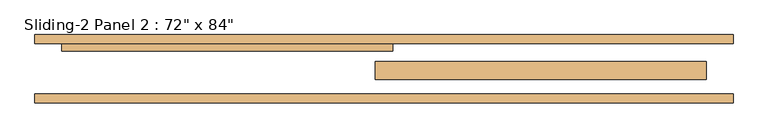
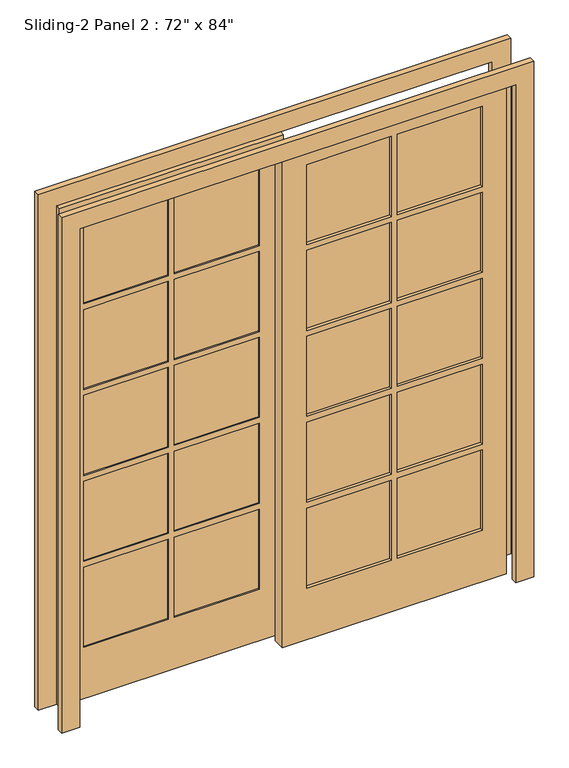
"""IFC4 building model written with IfcOpenShell, lengths in millimetres: door geometry."""

from ifc_helpers import new_model, si_unit, frame, origin, place, context, project, spatial, polyline, outline, extrude, source, transform, mapped, element, save


def door_37dff43f(model_context):
    return source(origin(), model_context, "Body", "SweptSolid", [
        extrude(outline(polyline([(457.2, 134.6668121), (812.8, 134.6668121), (812.8, 110.0909681), (457.2, 110.0909681), (457.2, 134.6668121)])), frame((0.0, 0.0, 1752.6), z_axis=(0.0, 0.0, 1.0), x_axis=(1.0, 0.0, 0.0)), (0.0, 0.0, 1.0), 355.6),
        extrude(outline(polyline([(76.2, 134.6668121), (431.8, 134.6668121), (431.8, 110.0909681), (76.2, 110.0909681), (76.2, 134.6668121)])), frame((0.0, 0.0, 1752.6), z_axis=(0.0, 0.0, 1.0), x_axis=(1.0, 0.0, 0.0)), (0.0, 0.0, 1.0), 355.6),
        extrude(outline(polyline([(457.2, 134.6668121), (812.8, 134.6668121), (812.8, 110.0909681), (457.2, 110.0909681), (457.2, 134.6668121)])), frame((0.0, 0.0, 1371.6), z_axis=(0.0, 0.0, 1.0), x_axis=(1.0, 0.0, 0.0)), (0.0, 0.0, 1.0), 355.6),
        extrude(outline(polyline([(76.2, 134.6668121), (431.8, 134.6668121), (431.8, 110.0909681), (76.2, 110.0909681), (76.2, 134.6668121)])), frame((0.0, 0.0, 1371.6), z_axis=(0.0, 0.0, 1.0), x_axis=(1.0, 0.0, 0.0)), (0.0, 0.0, 1.0), 355.6),
        extrude(outline(polyline([(457.2, 134.6668121), (812.8, 134.6668121), (812.8, 110.0909681), (457.2, 110.0909681), (457.2, 134.6668121)])), frame((0.0, 0.0, 990.6), z_axis=(0.0, 0.0, 1.0), x_axis=(1.0, 0.0, 0.0)), (0.0, 0.0, 1.0), 355.6),
        extrude(outline(polyline([(76.2, 134.6668121), (431.8, 134.6668121), (431.8, 110.0909681), (76.2, 110.0909681), (76.2, 134.6668121)])), frame((0.0, 0.0, 990.6), z_axis=(0.0, 0.0, 1.0), x_axis=(1.0, 0.0, 0.0)), (0.0, 0.0, 1.0), 355.6),
        extrude(outline(polyline([(457.2, 134.6668121), (812.8, 134.6668121), (812.8, 110.0909681), (457.2, 110.0909681), (457.2, 134.6668121)])), frame((0.0, 0.0, 609.6), z_axis=(0.0, 0.0, 1.0), x_axis=(1.0, 0.0, 0.0)), (0.0, 0.0, 1.0), 355.6),
        extrude(outline(polyline([(76.2, 134.6668121), (431.8, 134.6668121), (431.8, 110.0909681), (76.2, 110.0909681), (76.2, 134.6668121)])), frame((0.0, 0.0, 609.6), z_axis=(0.0, 0.0, 1.0), x_axis=(1.0, 0.0, 0.0)), (0.0, 0.0, 1.0), 355.6),
        extrude(outline(polyline([(457.2, 134.6668121), (812.8, 134.6668121), (812.8, 110.0909681), (457.2, 110.0909681), (457.2, 134.6668121)])), frame((0.0, 0.0, 228.6), z_axis=(0.0, 0.0, 1.0), x_axis=(1.0, 0.0, 0.0)), (0.0, 0.0, 1.0), 355.6),
        extrude(outline(polyline([(76.2, 134.6668121), (431.8, 134.6668121), (431.8, 110.0909681), (76.2, 110.0909681), (76.2, 134.6668121)])), frame((0.0, 0.0, 228.6), z_axis=(0.0, 0.0, 1.0), x_axis=(1.0, 0.0, 0.0)), (0.0, 0.0, 1.0), 355.6),
        extrude(outline(polyline([(-457.2, 183.5086448), (-812.8, 183.5086448), (-812.8, 190.5), (-457.2, 190.5), (-457.2, 183.5086448)])), frame((0.0, 0.0, 1752.6), z_axis=(0.0, 0.0, 1.0), x_axis=(1.0, 0.0, 0.0)), (0.0, 0.0, 1.0), 355.6),
        extrude(outline(polyline([(-76.2, 183.5086448), (-431.8, 183.5086448), (-431.8, 190.5), (-76.2, 190.5), (-76.2, 183.5086448)])), frame((0.0, 0.0, 1752.6), z_axis=(0.0, 0.0, 1.0), x_axis=(1.0, 0.0, 0.0)), (0.0, 0.0, 1.0), 355.6),
        extrude(outline(polyline([(-76.2, 183.5086448), (-431.8, 183.5086448), (-431.8, 190.5), (-76.2, 190.5), (-76.2, 183.5086448)])), frame((0.0, 0.0, 1371.6), z_axis=(0.0, 0.0, 1.0), x_axis=(1.0, 0.0, 0.0)), (0.0, 0.0, 1.0), 355.6),
        extrude(outline(polyline([(-457.2, 183.5086448), (-812.8, 183.5086448), (-812.8, 190.5), (-457.2, 190.5), (-457.2, 183.5086448)])), frame((0.0, 0.0, 1371.6), z_axis=(0.0, 0.0, 1.0), x_axis=(1.0, 0.0, 0.0)), (0.0, 0.0, 1.0), 355.6),
        extrude(outline(polyline([(-76.2, 183.5086448), (-431.8, 183.5086448), (-431.8, 190.5), (-76.2, 190.5), (-76.2, 183.5086448)])), frame((0.0, 0.0, 990.6), z_axis=(0.0, 0.0, 1.0), x_axis=(1.0, 0.0, 0.0)), (0.0, 0.0, 1.0), 355.6),
        extrude(outline(polyline([(-457.2, 183.5086448), (-812.8, 183.5086448), (-812.8, 190.5), (-457.2, 190.5), (-457.2, 183.5086448)])), frame((0.0, 0.0, 990.6), z_axis=(0.0, 0.0, 1.0), x_axis=(1.0, 0.0, 0.0)), (0.0, 0.0, 1.0), 355.6),
        extrude(outline(polyline([(-76.2, 183.5086448), (-431.8, 183.5086448), (-431.8, 190.5), (-76.2, 190.5), (-76.2, 183.5086448)])), frame((0.0, 0.0, 609.6), z_axis=(0.0, 0.0, 1.0), x_axis=(1.0, 0.0, 0.0)), (0.0, 0.0, 1.0), 355.6),
        extrude(outline(polyline([(-457.2, 183.5086448), (-812.8, 183.5086448), (-812.8, 190.5), (-457.2, 190.5), (-457.2, 183.5086448)])), frame((0.0, 0.0, 609.6), z_axis=(0.0, 0.0, 1.0), x_axis=(1.0, 0.0, 0.0)), (0.0, 0.0, 1.0), 355.6),
        extrude(outline(polyline([(-457.2, 183.5086448), (-812.8, 183.5086448), (-812.8, 190.5), (-457.2, 190.5), (-457.2, 183.5086448)])), frame((0.0, 0.0, 228.6), z_axis=(0.0, 0.0, 1.0), x_axis=(1.0, 0.0, 0.0)), (0.0, 0.0, 1.0), 355.6),
        extrude(outline(polyline([(-76.2, 183.5086448), (-431.8, 183.5086448), (-431.8, 190.5), (-76.2, 190.5), (-76.2, 183.5086448)])), frame((0.0, 0.0, 228.6), z_axis=(0.0, 0.0, 1.0), x_axis=(1.0, 0.0, 0.0)), (0.0, 0.0, 1.0), 355.6),
        extrude(outline(polyline([(2209.8, -914.4), (0.0, -914.4), (0.0, 25.4), (2209.8, 25.4), (2209.8, -914.4)]), holes=[polyline([(228.6, -457.2), (228.6, -812.8), (584.2, -812.8), (584.2, -457.2), (228.6, -457.2)]), polyline([(1752.6, -812.8), (2108.2, -812.8), (2108.2, -457.2), (1752.6, -457.2), (1752.6, -812.8)]), polyline([(2108.2, -431.8), (2108.2, -76.2), (1752.6, -76.2), (1752.6, -431.8), (2108.2, -431.8)]), polyline([(584.2, -76.2), (228.6, -76.2), (228.6, -431.8), (584.2, -431.8), (584.2, -76.2)]), polyline([(1727.2, -457.2), (1371.6, -457.2), (1371.6, -812.8), (1727.2, -812.8), (1727.2, -457.2)]), polyline([(1346.2, -457.2), (990.6, -457.2), (990.6, -812.8), (1346.2, -812.8), (1346.2, -457.2)]), polyline([(965.2, -457.2), (609.6, -457.2), (609.6, -812.8), (965.2, -812.8), (965.2, -457.2)]), polyline([(1727.2, -76.2), (1371.6, -76.2), (1371.6, -431.8), (1727.2, -431.8), (1727.2, -76.2)]), polyline([(990.6, -431.8), (1346.2, -431.8), (1346.2, -76.2), (990.6, -76.2), (990.6, -431.8)]), polyline([(609.6, -431.8), (965.2, -431.8), (965.2, -76.2), (609.6, -76.2), (609.6, -431.8)])]), frame((0.0, 177.8, 0.0), z_axis=(0.0, 1.0, 0.0), x_axis=(0.0, 0.0, 1.0)), (0.0, 0.0, 1.0), 20.6375),
        extrude(outline(polyline([(2209.8, -25.4), (0.0, -25.4), (0.0, 914.4), (2209.8, 914.4), (2209.8, -25.4)]), holes=[polyline([(2108.2, 457.2), (2108.2, 812.8), (1752.6, 812.8), (1752.6, 457.2), (2108.2, 457.2)]), polyline([(584.2, 812.8), (228.6, 812.8), (228.6, 457.2), (584.2, 457.2), (584.2, 812.8)]), polyline([(228.6, 431.8), (228.6, 76.2), (584.2, 76.2), (584.2, 431.8), (228.6, 431.8)]), polyline([(1752.6, 76.2), (2108.2, 76.2), (2108.2, 431.8), (1752.6, 431.8), (1752.6, 76.2)]), polyline([(1727.2, 457.2), (1727.2, 812.8), (1371.6, 812.8), (1371.6, 457.2), (1727.2, 457.2)]), polyline([(1346.2, 457.2), (1346.2, 812.8), (990.6, 812.8), (990.6, 457.2), (1346.2, 457.2)]), polyline([(990.6, 431.8), (990.6, 76.2), (1346.2, 76.2), (1346.2, 431.8), (990.6, 431.8)]), polyline([(965.2, 431.8), (609.6, 431.8), (609.6, 76.2), (965.2, 76.2), (965.2, 431.8)]), polyline([(609.6, 457.2), (965.2, 457.2), (965.2, 812.8), (609.6, 812.8), (609.6, 457.2)]), polyline([(1371.6, 76.2), (1727.2, 76.2), (1727.2, 431.8), (1371.6, 431.8), (1371.6, 76.2)])]), frame((0.0, 96.8375, 0.0), z_axis=(0.0, 1.0, 0.0), x_axis=(0.0, 0.0, 1.0)), (0.0, 0.0, 1.0), 50.8),
        extrude(outline(polyline([(0.0, -990.6), (0.0, -914.4), (2209.8, -914.4), (2209.8, 914.4), (0.0, 914.4), (0.0, 990.6), (2286.0, 990.6), (2286.0, -990.6), (0.0, -990.6)])), frame((0.0, 30.1625, 0.0), z_axis=(0.0, 1.0, 0.0), x_axis=(0.0, 0.0, 1.0)), (0.0, 0.0, 1.0), 25.4),
        extrude(outline(polyline([(0.0, 990.6), (2286.0, 990.6), (2286.0, -990.6), (0.0, -990.6), (0.0, -914.4), (2209.8, -914.4), (2209.8, 914.4), (0.0, 914.4), (0.0, 990.6)])), frame((0.0, 198.4375, 0.0), z_axis=(0.0, 1.0, 0.0), x_axis=(0.0, 0.0, 1.0)), (0.0, 0.0, 1.0), 25.4),
    ])


if __name__ == "__main__":
    model = new_model("IFC4")
    model_context = context("Model", 3, world=origin())
    ifc_project = project(units=[si_unit("LENGTHUNIT", "METRE", prefix="MILLI")], contexts=[model_context])
    site = spatial("IfcSite", under=ifc_project)
    building = spatial("IfcBuilding", under=site)
    placement = place(None, origin())
    door_shape = door_37dff43f(model_context)
    element("IfcDoor", 1, ObjectType="Sliding-2 Panel 2 : 72\" x 84\"", at=placement, inside=building, context=model_context, shape_type="MappedRepresentation", body=[
        mapped(door_shape, transform((0.0, 0.0, 0.0), x_axis=(1.0, 0.0, 0.0), y_axis=(0.0, 1.0, 0.0), z_axis=(0.0, 0.0, 1.0))),
    ])
    save(model, "model.ifc")
